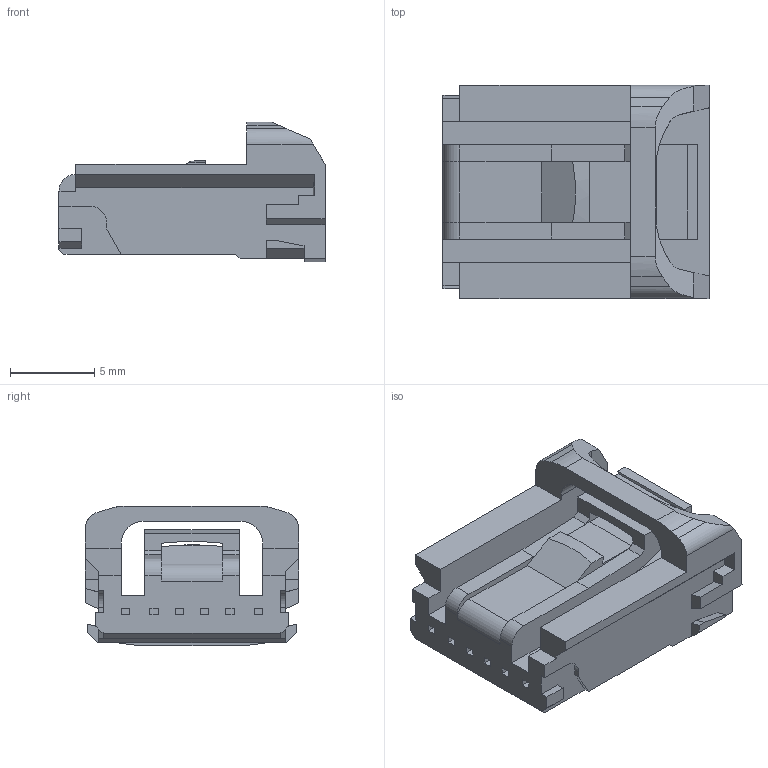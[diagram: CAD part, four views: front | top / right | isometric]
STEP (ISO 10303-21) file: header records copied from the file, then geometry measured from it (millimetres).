
FILE_DESCRIPTION(('CATIA V5 STEP','CAx-IF Rec.Pracs.--- Model Styling and Organization---1.5--- 2016-08-15','CAx-IF Rec.Pracs.---Supplemental Geometry---1.0---2011-11-01','CAx-IF Rec.Pracs.--- Composite Materials ---1.1---2010-07-15'),'2;1');
FILE_NAME('C:\Users\0120140016\Desktop\カタログ3D\12WAY\6099-0063(HE020-12F-U-LGR).stp','2024-09-25T03:25:41+00:00',('none'),('none'),'CATIA Version 5-6 Release 2022 SP2 HF23','CATIA V5 STEP AP214 v2','none');
FILE_SCHEMA(('AUTOMOTIVE_DESIGN { 1 0 10303 214 1 1 1 1 }'));
Length unit declared in the file: millimetre
Products named in the file (1): 12F_UPPER
Bounding box: 15.8 x 12.65 x 8.3 mm (x, y, z)
Volume: 738.1 mm3; surface area: 1103.7 mm2
Topology: 1 solids, 1 shells, 201 faces, 566 edges, 375 vertices
Faces by surface type: plane 180, cylinder 21
Entity records: 6146 total; most frequent: CARTESIAN_POINT 1182, ORIENTED_EDGE 1132, DIRECTION 835, EDGE_CURVE 566, VECTOR 513, LINE 513, VERTEX_POINT 375, EDGE_LOOP 213
